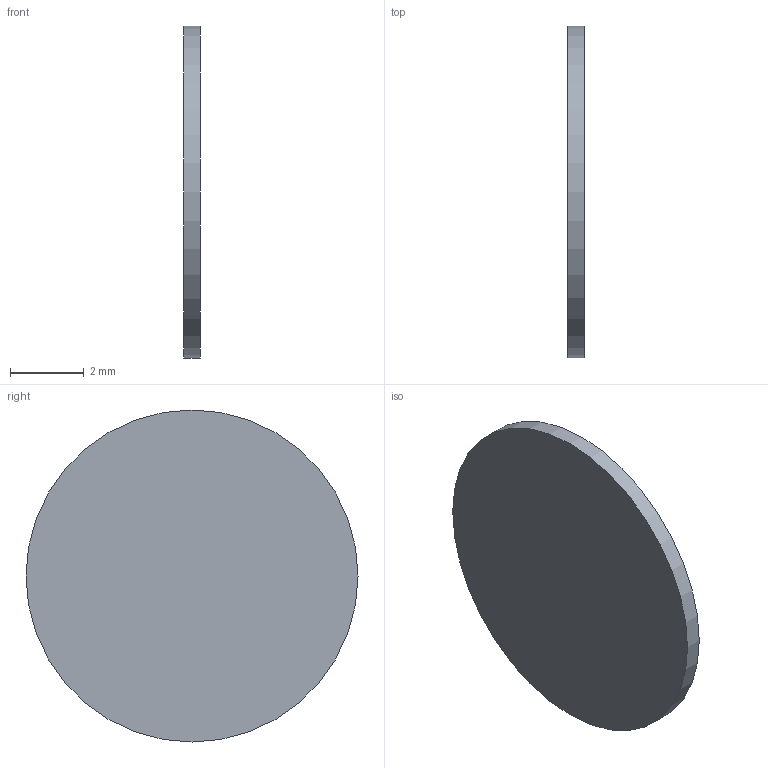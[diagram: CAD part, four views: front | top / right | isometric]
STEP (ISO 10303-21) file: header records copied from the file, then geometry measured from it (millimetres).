
FILE_DESCRIPTION(('Open CASCADE Model'),'2;1');
FILE_NAME('Open CASCADE Shape Model','2026-10-01T12:35:22',('Author'),( 'Open CASCADE'),'Open CASCADE STEP processor 7.8','Open CASCADE 7.8' ,'Unknown');
FILE_SCHEMA(('AUTOMOTIVE_DESIGN { 1 0 10303 214 1 1 1 1 }'));
Length unit declared in the file: millimetre
Products named in the file (2): H03_Cell_contact_R; H03_Cell_contact_R_solid
Assembly tree (1 placements, depth 2):
  H03_Cell_contact_R
    H03_Cell_contact_R_solid
Bounding box: 0.45 x 9 x 9 mm (x, y, z)
Volume: 28.6 mm3; surface area: 140 mm2
Topology: 1 solids, 1 shells, 3 faces, 3 edges, 2 vertices
Faces by surface type: plane 2, cylinder 1
Full cylindrical faces by diameter (mm): 9 x1
Entity records: 135 total; most frequent: DIRECTION 21, CARTESIAN_POINT 16, AXIS2_PLACEMENT_3D 7, ORIENTED_EDGE 6, PCURVE 6, DEFINITIONAL_REPRESENTATION 6, LINE 5, VECTOR 5
